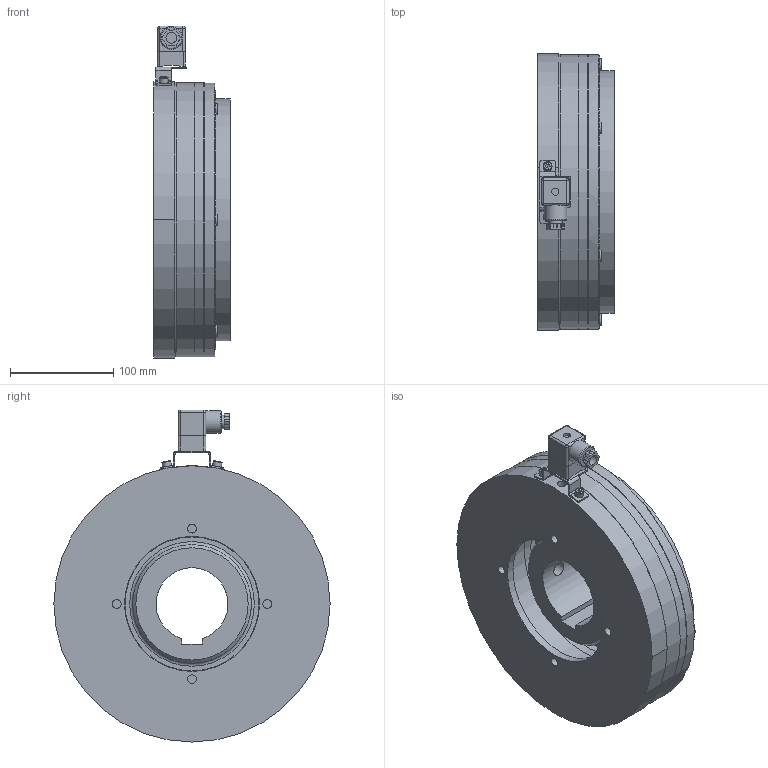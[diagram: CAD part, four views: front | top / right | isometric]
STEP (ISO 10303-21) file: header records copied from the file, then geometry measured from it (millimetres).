
FILE_DESCRIPTION(/* description */ (''),/* implementation_level */ '2;1');
FILE_NAME(/* name */ 'X:\INVENTOR\DISEGNI\08_Freni_Friz_Elettmag_Monodisco\08_28 EMFL_DF\EMFL_DF STEP\08_28_260_13 EMFL260_DF-C-MI_S@STEP.stp',/* time_stamp */ '2018-04-23T09:44:58+02:00',/* author */ ('stefano'),/* organization */ (''),/* preprocessor_version */ 'ST-DEVELOPER v17',/* originating_system */ 'Autodesk Inventor 2018',/* authorisation */ '');
FILE_SCHEMA (('AUTOMOTIVE_DESIGN { 1 0 10303 214 3 1 1 }'));
Length unit declared in the file: millimetre
Products named in the file (1): 08_28_260_13 EMFL260_DF-C-MI - Spina_Substitute_1
Bounding box: 74 x 268 x 322.16 mm (x, y, z)
Volume: 2513297.8 mm3; surface area: 444898.1 mm2
Topology: 2 solids, 2 shells, 576 faces, 1721 edges, 1131 vertices
Faces by surface type: cylinder 300, plane 204, cone 54, torus 14, sphere 4
Full cylindrical faces by diameter (mm): 2 x1, 6.647 x6, 7 x13, 7.1 x24, 8.5 x6, 9 x2, 10.5 x1, 11 x36, 12.5 x6, 13 x7, 13.835 x2, 22 x1, 115 x1, 130 x1, 162 x2, 170 x1, 194 x1, 202.5 x2, 235 x1, 236.5 x2, 243 x1, 266 x3
Entity records: 20995 total; most frequent: CARTESIAN_POINT 4101, DIRECTION 3717, ORIENTED_EDGE 3402, EDGE_CURVE 1701, AXIS2_PLACEMENT_3D 1545, VERTEX_POINT 1135, CIRCLE 968, EDGE_LOOP 702
